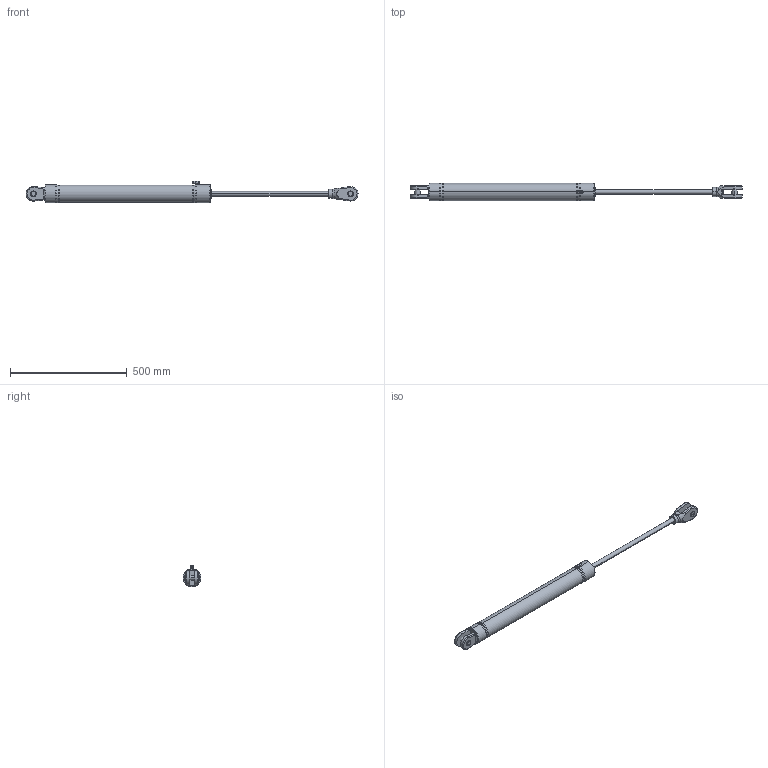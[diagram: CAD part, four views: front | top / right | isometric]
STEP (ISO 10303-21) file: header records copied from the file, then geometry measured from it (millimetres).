
FILE_DESCRIPTION (( 'STEP AP203' ), '1' );
FILE_NAME ('CL_060_S_0500.STEP', '2017-12-20T16:29:46', ( '' ), ( '' ), 'SwSTEP 2.0', 'SolidWorks 2015', '' );
FILE_SCHEMA (( 'CONFIG_CONTROL_DESIGN' ));
Length unit declared in the file: millimetre
Products named in the file (1): CL_060_S_0500
Bounding box: 1420.5 x 77 x 92.56 mm (x, y, z)
Volume: 3884211.3 mm3; surface area: 314199.2 mm2
Topology: 13 solids, 13 shells, 301 faces, 667 edges, 410 vertices
Faces by surface type: cylinder 111, plane 104, cone 60, torus 26
Entity records: 8994 total; most frequent: CARTESIAN_POINT 2203, DIRECTION 1499, ORIENTED_EDGE 1334, EDGE_CURVE 667, AXIS2_PLACEMENT_3D 612, VERTEX_POINT 410, EDGE_LOOP 321, CIRCLE 310
